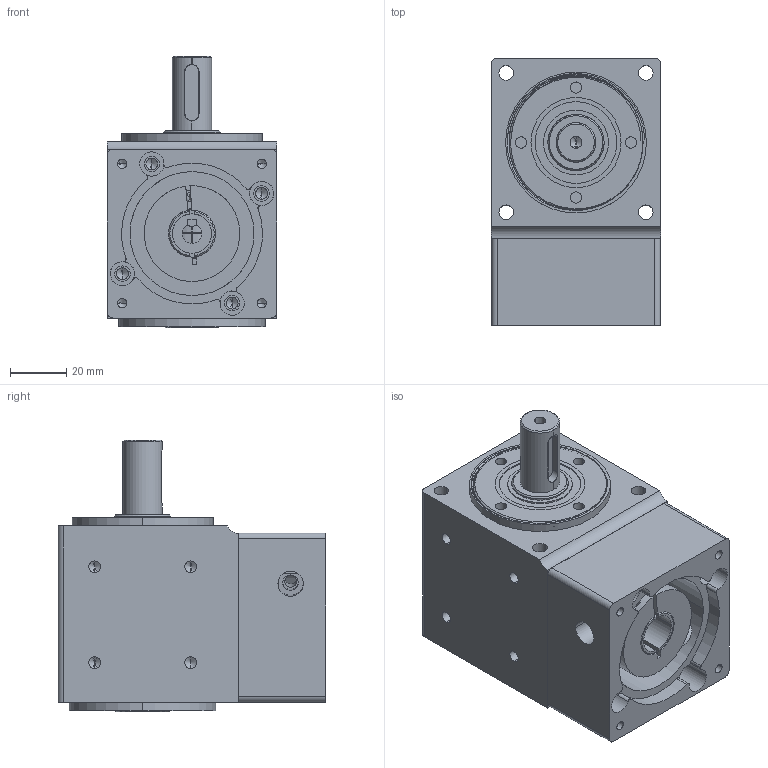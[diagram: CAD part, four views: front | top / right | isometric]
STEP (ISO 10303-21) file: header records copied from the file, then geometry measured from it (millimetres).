
FILE_DESCRIPTION (( 'STEP AP203' ), '1' );
FILE_NAME ('60单轴装配图（400W）.STEP', '2021-01-21T09:54:35', ( 'User' ), ( 'China' ), 'SwSTEP 2.0', 'SolidWorks 2015', '' );
FILE_SCHEMA (( 'CONFIG_CONTROL_DESIGN' ));
Length unit declared in the file: millimetre
Products named in the file (10): 60等粣蚾饜芞ㄗ400Wㄘ; 綴楊擘1; 標杶; 蹟譫; 60等粣怀堤粣; 输入轴; deep groove ball bearings gb_Rolling bearings 6003 GB 276-94; tapered roller bearings gb_Rolling bearings 30204 GB 297-94; 20-32-5蚐猾; 褲极
Assembly tree (13 placements, depth 2):
  60等粣蚾饜芞ㄗ400Wㄘ
    褲极
    綴楊擘1
    標杶
    蹟譫  x2
    60等粣怀堤粣  x2
    输入轴
    deep groove ball bearings gb_Rolling bearings 6003 GB 276-94
    tapered roller bearings gb_Rolling bearings 30204 GB 297-94  x2
    20-32-5蚐猾  x2
Bounding box: 60 x 95 x 96.5 mm (x, y, z)
Volume: 289079.9 mm3; surface area: 121121.8 mm2
Topology: 13 solids, 13 shells, 828 faces, 2746 edges, 1778 vertices
Faces by surface type: cylinder 257, torus 198, plane 180, cone 147, sphere 34, bspline 12
Entity records: 29417 total; most frequent: CARTESIAN_POINT 12018, ORIENTED_EDGE 3668, DIRECTION 3261, EDGE_CURVE 1834, AXIS2_PLACEMENT_3D 1442, VERTEX_POINT 1210, CIRCLE 834, EDGE_LOOP 728
